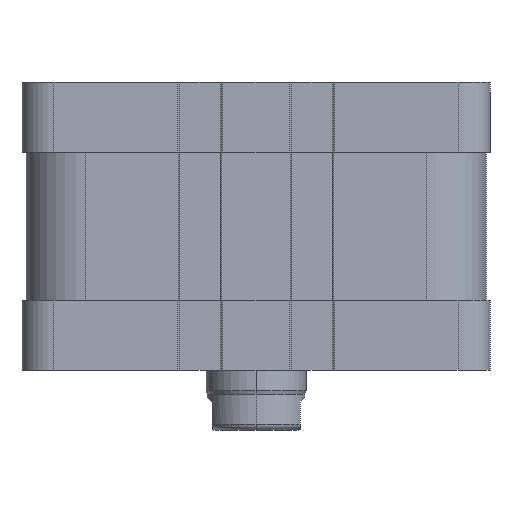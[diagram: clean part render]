
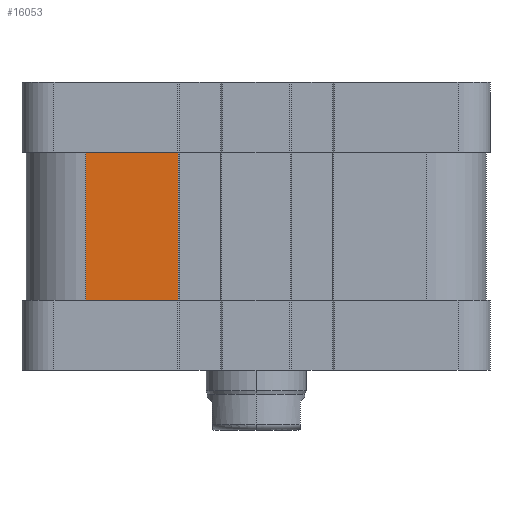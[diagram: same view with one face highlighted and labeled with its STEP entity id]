
A CAD part, left-side view. The second image highlights one B-rep face of the part: STEP entity #16053.
In plain terms, the highlighted planar face has unit normal (-1, 0, 0).
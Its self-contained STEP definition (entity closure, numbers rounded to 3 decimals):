
#8765=CARTESIAN_POINT('',(-31.75,-15.1,-11.6));
#8766=VERTEX_POINT('',#8765);
#8774=CARTESIAN_POINT('',(-31.75,8.0,-11.6));
#8775=VERTEX_POINT('',#8774);
#8776=CARTESIAN_POINT('',(-31.75,8.0,-11.6));
#8777=DIRECTION('',(0.0,-1.0,0.0));
#8778=VECTOR('',#8777,23.1);
#8779=LINE('',#8776,#8778);
#8780=EDGE_CURVE('',#8775,#8766,#8779,.T.);
#11586=CARTESIAN_POINT('',(-31.75,8.0,25.4));
#11587=VERTEX_POINT('',#11586);
#11595=CARTESIAN_POINT('',(-31.75,-15.1,25.4));
#11596=VERTEX_POINT('',#11595);
#11597=CARTESIAN_POINT('',(-31.75,-15.1,25.4));
#11598=DIRECTION('',(0.0,1.0,0.0));
#11599=VECTOR('',#11598,23.1);
#11600=LINE('',#11597,#11599);
#11601=EDGE_CURVE('',#11596,#11587,#11600,.T.);
#15971=CARTESIAN_POINT('',(-31.75,-15.1,25.4));
#15972=DIRECTION('',(0.0,0.0,-1.0));
#15973=VECTOR('',#15972,37.);
#15974=LINE('',#15971,#15973);
#15975=EDGE_CURVE('',#11596,#8766,#15974,.T.);
#16037=CARTESIAN_POINT('',(-31.75,-77.0,-11.6));
#16038=DIRECTION('',(-1.0,0.0,0.0));
#16039=DIRECTION('',(0.0,0.0,1.0));
#16040=AXIS2_PLACEMENT_3D('',#16037,#16038,#16039);
#16041=PLANE('',#16040);
#16042=ORIENTED_EDGE('',*,*,#15975,.F.);
#16043=ORIENTED_EDGE('',*,*,#11601,.T.);
#16044=CARTESIAN_POINT('',(-31.75,8.0,-11.6));
#16045=DIRECTION('',(0.0,0.0,1.0));
#16046=VECTOR('',#16045,37.);
#16047=LINE('',#16044,#16046);
#16048=EDGE_CURVE('',#8775,#11587,#16047,.T.);
#16049=ORIENTED_EDGE('',*,*,#16048,.F.);
#16050=ORIENTED_EDGE('',*,*,#8780,.T.);
#16051=EDGE_LOOP('',(#16042,#16043,#16049,#16050));
#16052=FACE_OUTER_BOUND('',#16051,.T.);
#16053=ADVANCED_FACE('',(#16052),#16041,.T.);
